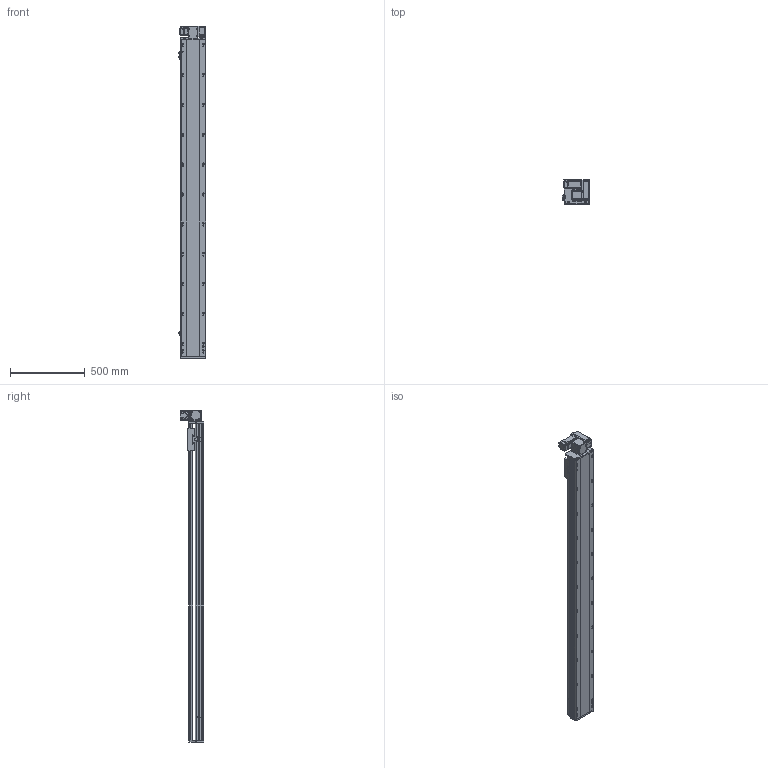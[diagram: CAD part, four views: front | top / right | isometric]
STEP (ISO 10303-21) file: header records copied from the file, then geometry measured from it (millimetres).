
FILE_DESCRIPTION (( 'STEP AP214' ), '1' );
FILE_NAME ('RTB17S-XX-1850-RW-M40-C4.STEP', '2025-12-11T09:06:47', ( '' ), ( '' ), 'SwSTEP 2.0', 'SolidWorks 2018', '' );
FILE_SCHEMA (( 'AUTOMOTIVE_DESIGN' ));
Length unit declared in the file: millimetre
Products named in the file (14): RTH13-BL-012覜茼え俋离^RTB17S-XX-XX-RW-M40-C4; RTB17S-L-007奻裔^RTB17S-XX-XX-RW-M40-C4; RTB14-L-005P--轴承塑胶压盖^RTB17S-RW-皮带座装配-400W_RTB17S-XX-XX-RW-M40-C4; RTB14-L-018P^RTB17S-RW-々湍釱蚾饜-400W_RTB17S-XX-XX-RW-M40-C4; RTB14-L-008-M20--萇儂啣^RTB17S-RW-々湍釱蚾饜-400W_RTB17S-XX-XX-RW-M40-C4; RMP17S-L-014-T20--々湍釱^RTB17S-RW-々湍釱蚾饜-400W_RTB17S-XX-XX-RW-M40-C4; RTB14-L-017P^RTB17S-RW-々湍釱蚾饜-400W_RTB17S-XX-XX-RW-M40-C4; RTB17S-XX-1850-RW-M40-C4; RTB17S-L-004佪裝蹟譫蟀諉釱^RTB17S-XX-XX-RW-M40-C4; RTB17S-L-001耜醱啣^RTB17S-XX-XX-RW-M40-C4; 400W侜督萇儂^RTB17S-XX-XX-RW-M40-C4; RTB17S-RW-々湍釱蚾饜-400W^RTB17S-XX-XX-RW-M40-C4; OMRON EE-SX672 传感器^RTB17S-XX-XX-RW-M40-C4; RTB17-R-011菁釱^RTB17S-XX-XX-RW-M40-C4
Assembly tree (16 placements, depth 3):
  RTB17S-XX-1850-RW-M40-C4
    RTB17-R-011菁釱^RTB17S-XX-XX-RW-M40-C4
    RTB17S-L-007奻裔^RTB17S-XX-XX-RW-M40-C4
    OMRON EE-SX672 传感器^RTB17S-XX-XX-RW-M40-C4  x3
    RTB17S-L-001耜醱啣^RTB17S-XX-XX-RW-M40-C4
    400W侜督萇儂^RTB17S-XX-XX-RW-M40-C4
    RTB17S-L-004佪裝蹟譫蟀諉釱^RTB17S-XX-XX-RW-M40-C4
    RTH13-BL-012覜茼え俋离^RTB17S-XX-XX-RW-M40-C4
    RTB17S-RW-々湍釱蚾饜-400W^RTB17S-XX-XX-RW-M40-C4
      RMP17S-L-014-T20--々湍釱^RTB17S-RW-々湍釱蚾饜-400W_RTB17S-XX-XX-RW-M40-C4
      RTB14-L-005P--轴承塑胶压盖^RTB17S-RW-皮带座装配-400W_RTB17S-XX-XX-RW-M40-C4
      RTB14-L-008-M20--萇儂啣^RTB17S-RW-々湍釱蚾饜-400W_RTB17S-XX-XX-RW-M40-C4
      RTB14-L-017P^RTB17S-RW-々湍釱蚾饜-400W_RTB17S-XX-XX-RW-M40-C4  x2
      RTB14-L-018P^RTB17S-RW-々湍釱蚾饜-400W_RTB17S-XX-XX-RW-M40-C4
Bounding box: 183.5 x 160.5 x 2222.5 mm (x, y, z)
Volume: 19300792.9 mm3; surface area: 2255761.1 mm2
Topology: 15 solids, 15 shells, 2285 faces, 6357 edges, 4149 vertices
Faces by surface type: plane 1078, cylinder 759, bspline 301, cone 139, torus 8
Entity records: 66473 total; most frequent: CARTESIAN_POINT 18762, ORIENTED_EDGE 9558, DIRECTION 8846, EDGE_CURVE 4779, VERTEX_POINT 3137, AXIS2_PLACEMENT_3D 3067, VECTOR 2712, LINE 2712
